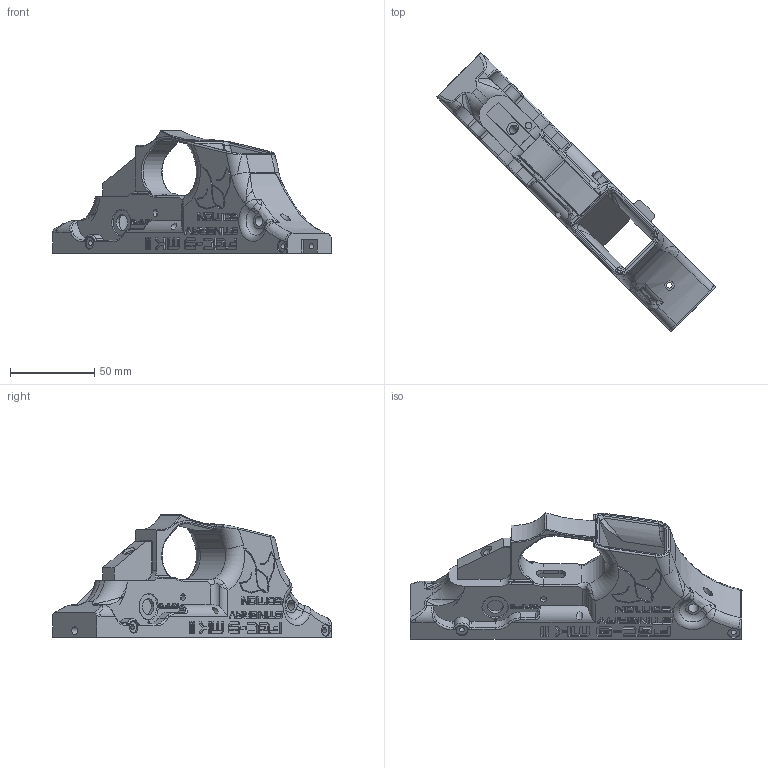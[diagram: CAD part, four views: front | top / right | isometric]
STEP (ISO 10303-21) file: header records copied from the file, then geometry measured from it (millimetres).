
FILE_DESCRIPTION(/* description */ (''),/* implementation_level */ '2;1');
FILE_NAME(/* name */ 'D:/Pew Pews/FGC-9_MkII_Stingray_Edition/Stingray Edition/.step files/2 - Lower/Lower Receiver.step',/* time_stamp */ '2022-05-12T09:39:54-06:00',/* author */ (''),/* organization */ (''),/* preprocessor_version */ 'ST-DEVELOPER v18.1',/* originating_system */ 'Autodesk Translation Framework v10.10.0.1391',/* authorisation */ '');
FILE_SCHEMA (('AUTOMOTIVE_DESIGN { 1 0 10303 214 3 1 1 }'));
Length unit declared in the file: millimetre
Products named in the file (1): Lower Receiver
Bounding box: 165.45 x 165.45 x 72.68 mm (x, y, z)
Volume: 144024.7 mm3; surface area: 51693.7 mm2
Topology: 1 solids, 1 shells, 920 faces, 2540 edges, 1639 vertices
Faces by surface type: plane 598, cylinder 162, bspline 106, torus 47, sphere 5, cone 2
Full cylindrical faces by diameter (mm): 1.5 x1, 3.15 x4, 3.2 x1, 3.75 x1, 4 x4, 4.2 x2, 4.8 x1, 5.2 x1, 5.6 x1, 6 x1, 7.1 x4, 8 x2, 9.5 x2
Entity records: 36776 total; most frequent: CARTESIAN_POINT 13693, ORIENTED_EDGE 5044, DIRECTION 4385, EDGE_CURVE 2522, LINE 1789, VECTOR 1789, VERTEX_POINT 1639, AXIS2_PLACEMENT_3D 1298
